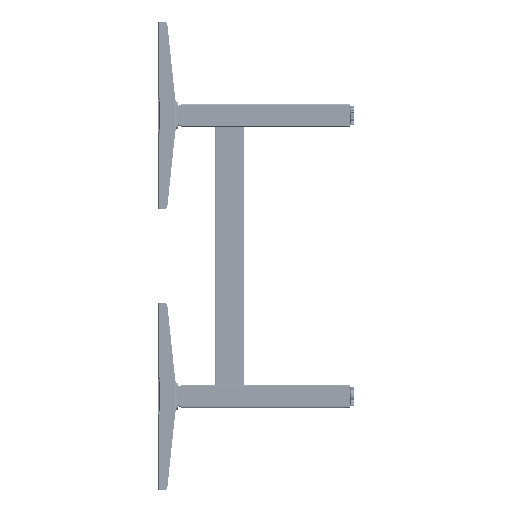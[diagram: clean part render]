
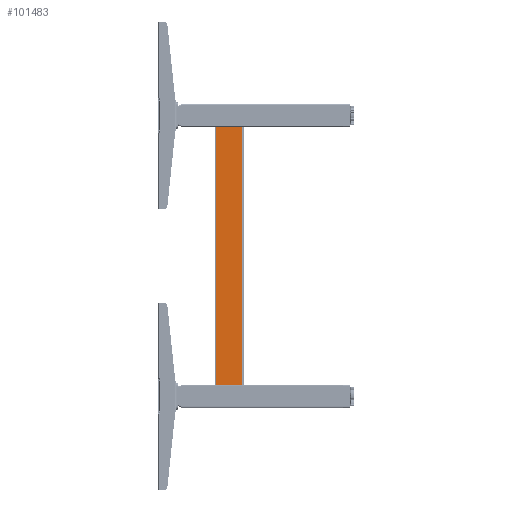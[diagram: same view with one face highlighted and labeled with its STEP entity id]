
A CAD part, top view. The second image highlights one B-rep face of the part: STEP entity #101483.
In plain terms, the highlighted planar face has unit normal (0, 0, 1) as drawn and (1, 0, 0) by its records, which use the part's own axes.
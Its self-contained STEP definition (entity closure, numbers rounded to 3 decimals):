
#100349=DIRECTION('',(0.,1.,0.));
#100350=VECTOR('',#100349,795.);
#100351=CARTESIAN_POINT('',(30.,-397.5,-41.));
#100352=LINE('',#100351,#100350);
#100357=DIRECTION('',(0.,0.,1.));
#100358=VECTOR('',#100357,82.);
#100359=CARTESIAN_POINT('',(30.,-397.5,-41.));
#100360=LINE('',#100359,#100358);
#100365=DIRECTION('',(0.,-1.,0.));
#100366=VECTOR('',#100365,795.);
#100367=CARTESIAN_POINT('',(30.,397.5,41.));
#100368=LINE('',#100367,#100366);
#100519=DIRECTION('',(0.,0.,1.));
#100520=VECTOR('',#100519,82.);
#100521=CARTESIAN_POINT('',(30.,397.5,-41.));
#100522=LINE('',#100521,#100520);
#101115=CARTESIAN_POINT('',(30.,-397.5,41.));
#101116=VERTEX_POINT('',#101115);
#101117=CARTESIAN_POINT('',(30.,-397.5,-41.));
#101118=VERTEX_POINT('',#101117);
#101159=CARTESIAN_POINT('',(30.,397.5,-41.));
#101160=VERTEX_POINT('',#101159);
#101161=CARTESIAN_POINT('',(30.,397.5,41.));
#101162=VERTEX_POINT('',#101161);
#101470=CARTESIAN_POINT('',(30.,-397.5,41.));
#101471=DIRECTION('',(1.,0.,0.));
#101472=DIRECTION('',(0.,0.,-1.));
#101473=AXIS2_PLACEMENT_3D('',#101470,#101471,#101472);
#101474=PLANE('',#101473);
#101475=ORIENTED_EDGE('',*,*,#101376,.T.);
#101477=ORIENTED_EDGE('',*,*,#101476,.F.);
#101479=ORIENTED_EDGE('',*,*,#101478,.F.);
#101480=ORIENTED_EDGE('',*,*,#101462,.F.);
#101481=EDGE_LOOP('',(#101475,#101477,#101479,#101480));
#101482=FACE_OUTER_BOUND('',#101481,.F.);
#101483=ADVANCED_FACE('',(#101482),#101474,.T.);
#101376=EDGE_CURVE('',#101118,#101116,#100360,.T.);
#101462=EDGE_CURVE('',#101118,#101160,#100352,.T.);
#101476=EDGE_CURVE('',#101162,#101116,#100368,.T.);
#101478=EDGE_CURVE('',#101160,#101162,#100522,.T.);
